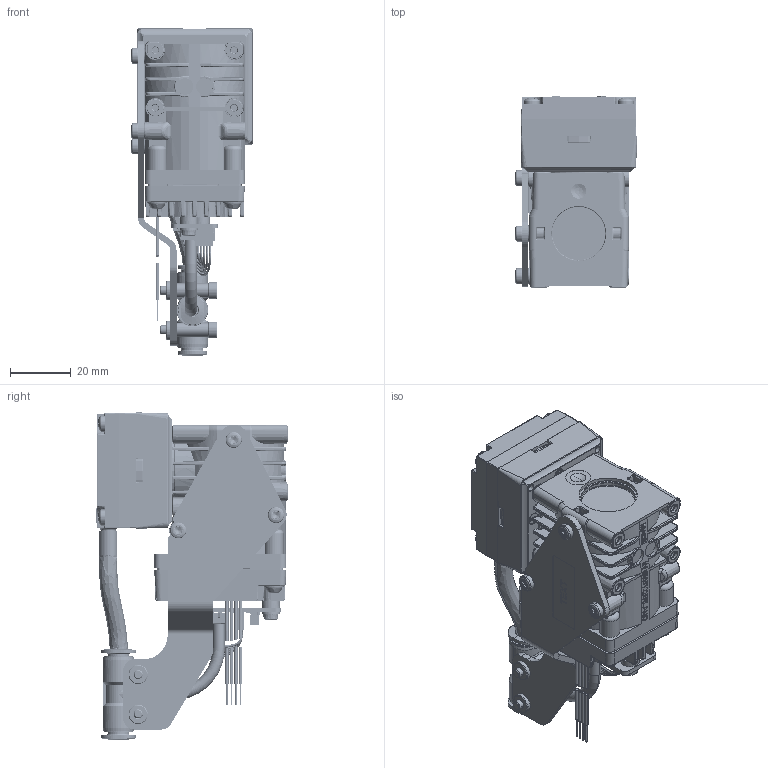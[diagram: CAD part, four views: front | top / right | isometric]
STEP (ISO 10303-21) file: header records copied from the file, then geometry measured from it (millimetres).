
FILE_DESCRIPTION((''),'2;1');
FILE_NAME('CAD1183314_SW','2026-09-15T13:15:45',('LuternauerR'),('KNF Flodos AG, 6210 Sursee, Switzerland'),'CREO PARAMETRIC BY PTC INC, 2025010','CREO PARAMETRIC BY PTC INC, 2025010','');
FILE_SCHEMA(('AP242_MANAGED_MODEL_BASED_3D_ENGINEERING_MIM_LF { 1 0 10303 442 1 1 4 }'));
Products named in the file (1): CAD1183314_SW
Bounding box: 40.2 x 63.1 x 108.05 mm (x, y, z)
Volume: 107317 mm3; surface area: 39463.5 mm2
Topology: 9 solids, 11 shells, 6220 faces, 16325 edges, 10292 vertices
Faces by surface type: plane 3130, cylinder 1318, bspline 659, extrusion 365, torus 292, cone 280, sphere 176
Full cylindrical faces by diameter (mm): 0.4 x1
Entity records: 331512 total; most frequent: CARTESIAN_POINT 144062, ORIENTED_EDGE 32582, DIRECTION 27306, EDGE_CURVE 16291, VERTEX_POINT 10292, VECTOR 10186, LINE 9821, AXIS2_PLACEMENT_3D 8560
